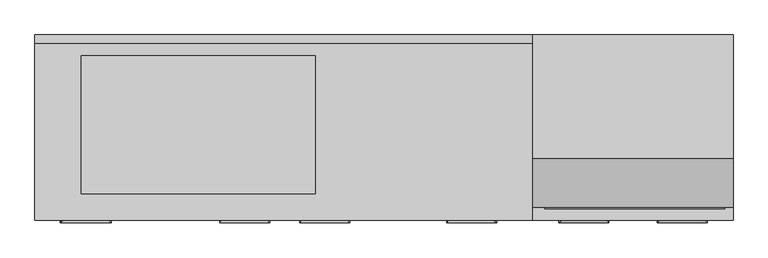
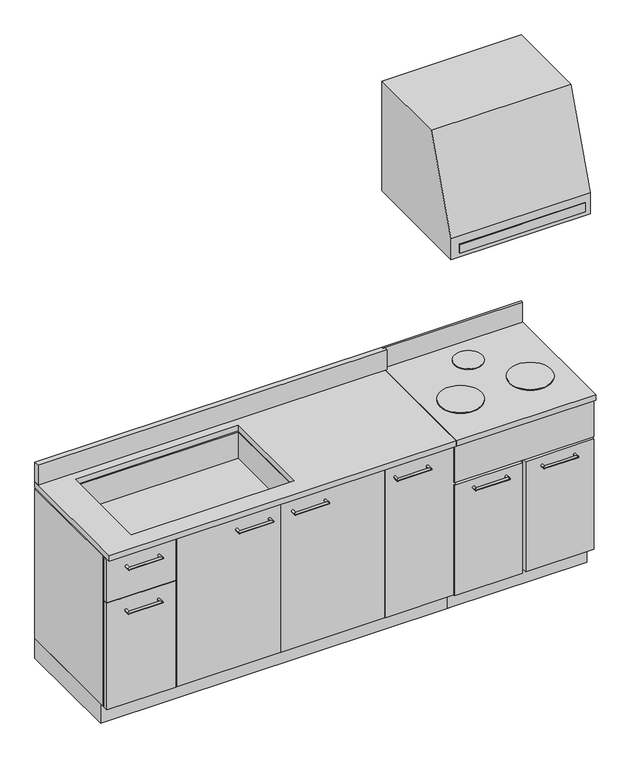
"""IFC4 building model written with IfcOpenShell, lengths in millimetres: flow terminal geometry, システムキッチンIH : システムキッチンIH."""

from ifc_helpers import new_model, si_unit, point, frame, frame_2d, origin, place, context, project, spatial, polyline, circle_curve, ellipse_curve, trimmed, segment, composite_curve, outline, extrude, faceted_brep, source, transform, mapped, element, save
from ifc_brep_helpers import plane_surface, cylinder_surface, advanced_brep


def flow_terminal_b13850ba(model_context):
    return source(origin(), model_context, "Body", "SolidModel", [
        extrude(outline(polyline([(0.0, 1600.0), (-516.4897805, 1600.0), (-516.4897805, 1695.0), (-369.4428062, 2099.0082413), (0.0, 2099.0082413), (0.0, 1600.0)])), frame((-600.0, 0.0, 0.0), z_axis=(1.0, 0.0, 0.0), x_axis=(0.0, 1.0, 0.0)), (0.0, 0.0, 1.0), 600.0),
        extrude(outline(polyline([(-24.5306616, -520.5154649), (-564.5306616, -520.5154649), (-564.5306616, -516.4897805), (-24.5306616, -516.4897805), (-24.5306616, -520.5154649)])), frame((0.0, 0.0, 1619.5443084), z_axis=(0.0, 0.0, 1.0), x_axis=(1.0, 0.0, 0.0)), (0.0, 0.0, 1.0), 40.0),
        extrude(outline(polyline([(0.0, 0.0), (0.0, -9.8381791), (-600.0, -9.8381791), (-600.0, 0.0), (0.0, 0.0)])), frame((0.0, 0.0, 800.0), z_axis=(0.0, 0.0, 1.0), x_axis=(1.0, 0.0, 0.0)), (0.0, 0.0, 1.0), 90.0),
        extrude(outline(polyline([(0.0, 0.0), (0.0, -540.0), (-600.0, -540.0), (-600.0, 0.0), (0.0, 0.0)])), frame((0.0, 0.0, 600.0), z_axis=(0.0, 0.0, 1.0), x_axis=(1.0, 0.0, 0.0)), (0.0, 0.0, 1.0), 175.0),
        faceted_brep([(0.0, 0.0, 600.0), (-600.0, 0.0, 600.0), (-600.0, -516.4897805, 600.0), (0.0, -516.4897805, 600.0), (-600.0, 0.0, 88.5), (0.0, 0.0, 88.5), (0.0, -540.0, 88.5), (-292.8169644, -540.0, 88.5), (-292.8169644, -516.4897805, 88.5), (-307.8169644, -516.4897805, 88.5), (-307.8169644, -540.0, 88.5), (-600.0, -540.0, 88.5), (-600.0, -540.0, 590.0), (-600.0, -516.4897805, 590.0), (0.0, -540.0, 590.0), (-292.8169644, -540.0, 590.0), (-307.8169644, -540.0, 590.0), (0.0, -516.4897805, 590.0), (-307.8169644, -516.4897805, 590.0), (-292.8169644, -516.4897805, 590.0)], [[[0, 1, 2, 3]], [[4, 5, 6, 7, 8, 9, 10, 11]], [[4, 11, 12, 13, 2, 1]], [[7, 6, 14, 15]], [[11, 10, 16, 12]], [[6, 5, 0, 3, 17, 14]], [[1, 0, 5, 4]], [[18, 9, 8, 19, 17, 3, 2, 13]], [[18, 13, 12, 16]], [[17, 19, 15, 14]], [[19, 8, 7, 15]], [[9, 18, 16, 10]]]),
        extrude(outline(composite_curve([segment(trimmed(circle_curve(frame_2d((-300.0, -124.5419688)), 60.0), [point((-360.0, -124.5419688))], [point((-240.0, -124.5419688))], False, "CARTESIAN"), True, "CONTINUOUS"), segment(trimmed(circle_curve(frame_2d((-300.0, -124.5419688)), 60.0), [point((-240.0, -124.5419688))], [point((-360.0, -124.5419688))], False, "CARTESIAN"), True, "CONTINUOUS")], self_intersect=False)), frame((0.0, 0.0, 800.0), z_axis=(0.0, 0.0, 1.0), x_axis=(1.0, 0.0, 0.0)), (0.0, 0.0, 1.0), 3.4559593),
        extrude(outline(composite_curve([segment(trimmed(circle_curve(frame_2d((-152.4677396, -331.6593351)), 89.0934112), [point((-241.5611508, -331.6593351))], [point((-63.3743285, -331.6593351))], False, "CARTESIAN"), True, "CONTINUOUS"), segment(trimmed(circle_curve(frame_2d((-152.4677396, -331.6593351)), 89.0934112), [point((-63.3743285, -331.6593351))], [point((-241.5611508, -331.6593351))], False, "CARTESIAN"), True, "CONTINUOUS")], self_intersect=False)), frame((0.0, 0.0, 800.0), z_axis=(0.0, 0.0, 1.0), x_axis=(1.0, 0.0, 0.0)), (0.0, 0.0, 1.0), 3.4559593),
        extrude(outline(composite_curve([segment(trimmed(circle_curve(frame_2d((-452.4677396, -331.6593351)), 89.0934112), [point((-541.5611508, -331.6593351))], [point((-363.3743285, -331.6593351))], False, "CARTESIAN"), True, "CONTINUOUS"), segment(trimmed(circle_curve(frame_2d((-452.4677396, -331.6593351)), 89.0934112), [point((-363.3743285, -331.6593351))], [point((-541.5611508, -331.6593351))], False, "CARTESIAN"), True, "CONTINUOUS")], self_intersect=False)), frame((0.0, 0.0, 800.0), z_axis=(0.0, 0.0, 1.0), x_axis=(1.0, 0.0, 0.0)), (0.0, 0.0, 1.0), 3.4559593),
        extrude(outline(polyline([(0.0, 0.0), (0.0, -555.0), (-600.0, -555.0), (-600.0, 0.0), (0.0, 0.0)])), frame((0.0, 0.0, 775.0), z_axis=(0.0, 0.0, 1.0), x_axis=(1.0, 0.0, 0.0)), (0.0, 0.0, 1.0), 25.0),
        advanced_brep(
        [(-227.6629348, -537.5962435, 549.478406), (-217.6629348, -537.5962435, 549.478406), (-227.6629348, -562.5962435, 549.478406), (-217.6629348, -552.5962435, 549.478406), (-77.6629348, -562.5962435, 549.478406), (-87.6629348, -552.5962435, 549.478406), (-77.6629348, -537.5962435, 549.478406), (-87.6629348, -537.5962435, 549.478406)],
        [
            (0, 1, circle_curve(frame((-222.6629348, -537.5962435, 549.478406), z_axis=(0.0, 1.0, 0.0), x_axis=(1.0, 0.0, 0.0)), 5.0)),
            (1, 0, circle_curve(frame((-222.6629348, -537.5962435, 549.478406), z_axis=(0.0, 1.0, 0.0), x_axis=(1.0, 0.0, 0.0)), 5.0)),
            (0, 2),
            (2, 3, ellipse_curve(frame((-222.6629348, -557.5962435, 549.478406), z_axis=(-0.7071067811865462, 0.7071067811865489, 0.0), x_axis=(0.707106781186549, 0.707106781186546, 0.0)), 7.0710678, 5.0)),
            (3, 1),
            (3, 2, ellipse_curve(frame((-222.6629348, -557.5962435, 549.478406), z_axis=(-0.7071067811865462, 0.7071067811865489, 0.0), x_axis=(0.707106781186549, 0.707106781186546, 0.0)), 7.0710678, 5.0)),
            (2, 4),
            (4, 5, ellipse_curve(frame((-82.6629348, -557.5962435, 549.478406), z_axis=(-0.7071067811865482, -0.7071067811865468, 0.0), x_axis=(-0.7071067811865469, 0.7071067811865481, 0.0)), 7.0710678, 5.0)),
            (5, 3),
            (5, 4, ellipse_curve(frame((-82.6629348, -557.5962435, 549.478406), z_axis=(-0.7071067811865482, -0.7071067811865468, 0.0), x_axis=(-0.7071067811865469, 0.7071067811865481, 0.0)), 7.0710678, 5.0)),
            (6, 7, circle_curve(frame((-82.6629348, -537.5962435, 549.478406), z_axis=(0.0, 1.0, 0.0), x_axis=(-1.0, 0.0, 0.0)), 5.0)),
            (7, 6, circle_curve(frame((-82.6629348, -537.5962435, 549.478406), z_axis=(0.0, 1.0, 0.0), x_axis=(-1.0, 0.0, 0.0)), 5.0)),
            (4, 6),
            (7, 5),
        ],
        [
            plane_surface(frame((-222.6629348, -537.5962435, 0.0), z_axis=(0.0, 1.0, 0.0), x_axis=(0.0, 0.0, 1.0))),
            cylinder_surface(frame((-222.6629348, -537.5962435, 549.478406), z_axis=(0.0, 1.0, 0.0), x_axis=(1.0, 0.0, 0.0)), 5.0),
            cylinder_surface(frame((-222.6629348, -557.5962435, 549.478406), z_axis=(-1.0, 0.0, 0.0), x_axis=(0.0, 1.0, 0.0)), 5.0),
            plane_surface(frame((-82.6629348, -537.5962435, 0.0), z_axis=(0.0, 1.0, 0.0), x_axis=(0.0, 0.0, 1.0))),
            cylinder_surface(frame((-82.6629348, -557.5962435, 549.478406), z_axis=(0.0, -1.0, 0.0), x_axis=(-1.0, 0.0, 0.0)), 5.0),
        ],
        [
            (0, [[1, 2]]),
            (1, [[-1, 3, 4, 5]]),
            (1, [[-2, -5, 6, -3]]),
            (2, [[-4, 7, 8, 9]]),
            (2, [[-6, -9, 10, -7]]),
            (3, [[11, 12]]),
            (4, [[-8, 13, -12, 14]]),
            (4, [[-10, -14, -11, -13]]),
        ],
    ),
        advanced_brep(
        [(-522.1659599, -537.5962435, 552.9843944), (-512.1659599, -537.5962435, 552.9843944), (-522.1659599, -562.5962435, 552.9843944), (-512.1659599, -552.5962435, 552.9843944), (-372.1659599, -562.5962435, 552.9843944), (-382.1659599, -552.5962435, 552.9843944), (-372.1659599, -537.5962435, 552.9843944), (-382.1659599, -537.5962435, 552.9843944)],
        [
            (0, 1, circle_curve(frame((-517.1659599, -537.5962435, 552.9843944), z_axis=(0.0, 1.0, 0.0), x_axis=(1.0, 0.0, 0.0)), 5.0)),
            (1, 0, circle_curve(frame((-517.1659599, -537.5962435, 552.9843944), z_axis=(0.0, 1.0, 0.0), x_axis=(1.0, 0.0, 0.0)), 5.0)),
            (0, 2),
            (2, 3, ellipse_curve(frame((-517.1659599, -557.5962435, 552.9843944), z_axis=(-0.7071067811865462, 0.7071067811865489, 0.0), x_axis=(0.707106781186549, 0.707106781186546, 0.0)), 7.0710678, 5.0)),
            (3, 1),
            (3, 2, ellipse_curve(frame((-517.1659599, -557.5962435, 552.9843944), z_axis=(-0.7071067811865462, 0.7071067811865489, 0.0), x_axis=(0.707106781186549, 0.707106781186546, 0.0)), 7.0710678, 5.0)),
            (2, 4),
            (4, 5, ellipse_curve(frame((-377.1659599, -557.5962435, 552.9843944), z_axis=(-0.7071067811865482, -0.7071067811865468, 0.0), x_axis=(-0.7071067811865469, 0.7071067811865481, 0.0)), 7.0710678, 5.0)),
            (5, 3),
            (5, 4, ellipse_curve(frame((-377.1659599, -557.5962435, 552.9843944), z_axis=(-0.7071067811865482, -0.7071067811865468, 0.0), x_axis=(-0.7071067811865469, 0.7071067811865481, 0.0)), 7.0710678, 5.0)),
            (6, 7, circle_curve(frame((-377.1659599, -537.5962435, 552.9843944), z_axis=(0.0, 1.0, 0.0), x_axis=(-1.0, 0.0, 0.0)), 5.0)),
            (7, 6, circle_curve(frame((-377.1659599, -537.5962435, 552.9843944), z_axis=(0.0, 1.0, 0.0), x_axis=(-1.0, 0.0, 0.0)), 5.0)),
            (4, 6),
            (7, 5),
        ],
        [
            plane_surface(frame((-517.1659599, -537.5962435, 0.0), z_axis=(0.0, 1.0, 0.0), x_axis=(0.0, 0.0, 1.0))),
            cylinder_surface(frame((-517.1659599, -537.5962435, 552.9843944), z_axis=(0.0, 1.0, 0.0), x_axis=(1.0, 0.0, 0.0)), 5.0),
            cylinder_surface(frame((-517.1659599, -557.5962435, 552.9843944), z_axis=(-1.0, 0.0, 0.0), x_axis=(0.0, 1.0, 0.0)), 5.0),
            plane_surface(frame((-377.1659599, -537.5962435, 0.0), z_axis=(0.0, 1.0, 0.0), x_axis=(0.0, 0.0, 1.0))),
            cylinder_surface(frame((-377.1659599, -557.5962435, 552.9843944), z_axis=(0.0, -1.0, 0.0), x_axis=(-1.0, 0.0, 0.0)), 5.0),
        ],
        [
            (0, [[1, 2]]),
            (1, [[-1, 3, 4, 5]]),
            (1, [[-2, -5, 6, -3]]),
            (2, [[-4, 7, 8, 9]]),
            (2, [[-6, -9, 10, -7]]),
            (3, [[11, 12]]),
            (4, [[-8, 13, -12, 14]]),
            (4, [[-10, -14, -11, -13]]),
        ],
    ),
        extrude(outline(polyline([(0.0, 0.0), (0.0, -490.0), (-600.0, -490.0), (-600.0, 0.0), (0.0, 0.0)])), frame((0.0, 0.0, -0.5), z_axis=(0.0, 0.0, 1.0), x_axis=(1.0, 0.0, 0.0)), (0.0, 0.0, 1.0), 89.0),
        faceted_brep([(-2058.2204435, -25.0, 770.0), (-2058.2204435, -490.0, 770.0), (-1043.7955275, -490.0, 770.0), (-1043.7955275, -25.0, 770.0), (-1252.8937158, -61.4897805, 770.0), (-1252.8937158, -476.3747196, 770.0), (-1952.8937158, -476.3747196, 770.0), (-1952.8937158, -61.4897805, 770.0), (-2058.2204435, -25.0, 481.2861972), (-1043.7955275, -25.0, 481.2861972), (-1043.7955275, -490.0, 481.2861972), (-2058.2204435, -490.0, 481.2861972), (-1952.8937158, -61.4897805, 650.0), (-1952.8937158, -476.3747196, 650.0), (-1252.8937158, -476.3747196, 650.0), (-1252.8937158, -61.4897805, 650.0)], [[[0, 1, 2, 3], [4, 5, 6, 7]], [[8, 9, 10, 11]], [[3, 9, 8, 0]], [[2, 10, 9, 3]], [[1, 11, 10, 2]], [[0, 8, 11, 1]], [[12, 13, 14, 15]], [[15, 4, 7, 12]], [[14, 5, 4, 15]], [[13, 6, 5, 14]], [[12, 7, 6, 13]]]),
        extrude(outline(polyline([(-2092.3937158, 0.0), (-592.8937158, 0.0), (-592.8937158, -508.8242978), (-2092.3937158, -508.8242978), (-2092.3937158, 0.0)]), holes=[polyline([(-2058.2204435, -25.0), (-2058.2204435, -490.0), (-641.4661184, -490.0), (-641.4661184, -25.0), (-2058.2204435, -25.0)])]), frame((0.0, 0.0, 90.0), z_axis=(0.0, 0.0, 1.0), x_axis=(1.0, 0.0, 0.0)), (0.0, 0.0, 1.0), 680.0),
        extrude(outline(polyline([(-2092.3937158, 0.0), (-592.8937158, 0.0), (-592.8937158, -555.0), (-2092.3937158, -555.0), (-2092.3937158, 0.0)]), holes=[polyline([(-1952.8937158, -61.4897805), (-1952.8937158, -476.3747196), (-1252.8937158, -476.3747196), (-1252.8937158, -61.4897805), (-1952.8937158, -61.4897805)])]), frame((0.0, 0.0, 775.0), z_axis=(0.0, 0.0, 1.0), x_axis=(1.0, 0.0, 0.0)), (0.0, 0.0, 1.0), 25.0),
        advanced_brep(
        [(-1865.841626, -537.5962435, 514.8721474), (-1875.841626, -537.5962435, 514.8721474), (-1875.841626, -552.5962435, 514.8721474), (-1865.841626, -562.5962435, 514.8721474), (-2005.841626, -552.5962435, 514.8721474), (-2015.841626, -562.5962435, 514.8721474), (-2015.841626, -537.5962435, 514.8721474), (-2005.841626, -537.5962435, 514.8721474)],
        [
            (0, 1, circle_curve(frame((-1870.841626, -537.5962435, 514.8721474), z_axis=(0.0, 1.0, 0.0), x_axis=(-1.0, 0.0, 0.0)), 5.0)),
            (1, 0, circle_curve(frame((-1870.841626, -537.5962435, 514.8721474), z_axis=(0.0, 1.0, 0.0), x_axis=(-1.0, 0.0, 0.0)), 5.0)),
            (1, 2),
            (2, 3, ellipse_curve(frame((-1870.841626, -557.5962435, 514.8721474), z_axis=(0.7071067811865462, 0.7071067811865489, 0.0), x_axis=(-0.707106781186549, 0.707106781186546, 0.0)), 7.0710678, 5.0)),
            (3, 0),
            (3, 2, ellipse_curve(frame((-1870.841626, -557.5962435, 514.8721474), z_axis=(0.7071067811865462, 0.7071067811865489, 0.0), x_axis=(-0.707106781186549, 0.707106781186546, 0.0)), 7.0710678, 5.0)),
            (2, 4),
            (4, 5, ellipse_curve(frame((-2010.841626, -557.5962435, 514.8721474), z_axis=(0.7071067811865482, -0.7071067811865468, 0.0), x_axis=(0.7071067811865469, 0.7071067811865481, 0.0)), 7.0710678, 5.0)),
            (5, 3),
            (5, 4, ellipse_curve(frame((-2010.841626, -557.5962435, 514.8721474), z_axis=(0.7071067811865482, -0.7071067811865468, 0.0), x_axis=(0.7071067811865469, 0.7071067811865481, 0.0)), 7.0710678, 5.0)),
            (6, 7, circle_curve(frame((-2010.841626, -537.5962435, 514.8721474), z_axis=(0.0, 1.0, 0.0), x_axis=(1.0, 0.0, 0.0)), 5.0)),
            (7, 6, circle_curve(frame((-2010.841626, -537.5962435, 514.8721474), z_axis=(0.0, 1.0, 0.0), x_axis=(1.0, 0.0, 0.0)), 5.0)),
            (4, 7),
            (6, 5),
        ],
        [
            plane_surface(frame((-1870.841626, -537.5962435, -199.3877131), z_axis=(0.0, 1.0, 0.0), x_axis=(0.0, 0.0, 1.0))),
            cylinder_surface(frame((-1870.841626, -537.5962435, 514.8721474), z_axis=(0.0, 1.0, 0.0), x_axis=(-1.0, 0.0, 0.0)), 5.0),
            cylinder_surface(frame((-1870.841626, -557.5962435, 514.8721474), z_axis=(1.0, 0.0, 0.0), x_axis=(0.0, 1.0, 0.0)), 5.0),
            plane_surface(frame((-2010.841626, -537.5962435, -199.3877131), z_axis=(0.0, 1.0, 0.0), x_axis=(0.0, 0.0, 1.0))),
            cylinder_surface(frame((-2010.841626, -557.5962435, 514.8721474), z_axis=(0.0, -1.0, 0.0), x_axis=(1.0, 0.0, 0.0)), 5.0),
        ],
        [
            (0, [[1, 2]]),
            (1, [[3, 4, 5, -2]]),
            (1, [[-5, 6, -3, -1]]),
            (2, [[7, 8, 9, -4]]),
            (2, [[-9, 10, -7, -6]]),
            (3, [[11, 12]]),
            (4, [[13, -11, 14, -8]]),
            (4, [[-14, -12, -13, -10]]),
        ],
    ),
        advanced_brep(
        [(-1863.8176436, -537.5962435, 714.2598605), (-1873.8176436, -537.5962435, 714.2598605), (-1873.8176436, -552.5962435, 714.2598605), (-1863.8176436, -562.5962435, 714.2598605), (-2003.8176436, -552.5962435, 714.2598605), (-2013.8176436, -562.5962435, 714.2598605), (-2013.8176436, -537.5962435, 714.2598605), (-2003.8176436, -537.5962435, 714.2598605)],
        [
            (0, 1, circle_curve(frame((-1868.8176436, -537.5962435, 714.2598605), z_axis=(0.0, 1.0, 0.0), x_axis=(-1.0, 0.0, 0.0)), 5.0)),
            (1, 0, circle_curve(frame((-1868.8176436, -537.5962435, 714.2598605), z_axis=(0.0, 1.0, 0.0), x_axis=(-1.0, 0.0, 0.0)), 5.0)),
            (1, 2),
            (2, 3, ellipse_curve(frame((-1868.8176436, -557.5962435, 714.2598605), z_axis=(0.7071067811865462, 0.7071067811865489, 0.0), x_axis=(-0.707106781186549, 0.707106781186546, 0.0)), 7.0710678, 5.0)),
            (3, 0),
            (3, 2, ellipse_curve(frame((-1868.8176436, -557.5962435, 714.2598605), z_axis=(0.7071067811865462, 0.7071067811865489, 0.0), x_axis=(-0.707106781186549, 0.707106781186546, 0.0)), 7.0710678, 5.0)),
            (2, 4),
            (4, 5, ellipse_curve(frame((-2008.8176436, -557.5962435, 714.2598605), z_axis=(0.7071067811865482, -0.7071067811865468, 0.0), x_axis=(0.7071067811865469, 0.7071067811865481, 0.0)), 7.0710678, 5.0)),
            (5, 3),
            (5, 4, ellipse_curve(frame((-2008.8176436, -557.5962435, 714.2598605), z_axis=(0.7071067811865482, -0.7071067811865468, 0.0), x_axis=(0.7071067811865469, 0.7071067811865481, 0.0)), 7.0710678, 5.0)),
            (6, 7, circle_curve(frame((-2008.8176436, -537.5962435, 714.2598605), z_axis=(0.0, 1.0, 0.0), x_axis=(1.0, 0.0, 0.0)), 5.0)),
            (7, 6, circle_curve(frame((-2008.8176436, -537.5962435, 714.2598605), z_axis=(0.0, 1.0, 0.0), x_axis=(1.0, 0.0, 0.0)), 5.0)),
            (4, 7),
            (6, 5),
        ],
        [
            plane_surface(frame((-1868.8176436, -537.5962435, 0.0), z_axis=(0.0, 1.0, 0.0), x_axis=(0.0, 0.0, 1.0))),
            cylinder_surface(frame((-1868.8176436, -537.5962435, 714.2598605), z_axis=(0.0, 1.0, 0.0), x_axis=(-1.0, 0.0, 0.0)), 5.0),
            cylinder_surface(frame((-1868.8176436, -557.5962435, 714.2598605), z_axis=(1.0, 0.0, 0.0), x_axis=(0.0, 1.0, 0.0)), 5.0),
            plane_surface(frame((-2008.8176436, -537.5962435, 0.0), z_axis=(0.0, 1.0, 0.0), x_axis=(0.0, 0.0, 1.0))),
            cylinder_surface(frame((-2008.8176436, -557.5962435, 714.2598605), z_axis=(0.0, -1.0, 0.0), x_axis=(1.0, 0.0, 0.0)), 5.0),
        ],
        [
            (0, [[1, 2]]),
            (1, [[3, 4, 5, -2]]),
            (1, [[-5, 6, -3, -1]]),
            (2, [[7, 8, 9, -4]]),
            (2, [[-9, 10, -7, -6]]),
            (3, [[11, 12]]),
            (4, [[13, -11, 14, -8]]),
            (4, [[-14, -12, -13, -10]]),
        ],
    ),
        advanced_brep(
        [(-1388.8176436, -537.5962435, 714.2598605), (-1398.8176436, -537.5962435, 714.2598605), (-1398.8176436, -552.5962435, 714.2598605), (-1388.8176436, -562.5962435, 714.2598605), (-1528.8176436, -552.5962435, 714.2598605), (-1538.8176436, -562.5962435, 714.2598605), (-1538.8176436, -537.5962435, 714.2598605), (-1528.8176436, -537.5962435, 714.2598605)],
        [
            (0, 1, circle_curve(frame((-1393.8176436, -537.5962435, 714.2598605), z_axis=(0.0, 1.0, 0.0), x_axis=(-1.0, 0.0, 0.0)), 5.0)),
            (1, 0, circle_curve(frame((-1393.8176436, -537.5962435, 714.2598605), z_axis=(0.0, 1.0, 0.0), x_axis=(-1.0, 0.0, 0.0)), 5.0)),
            (1, 2),
            (2, 3, ellipse_curve(frame((-1393.8176436, -557.5962435, 714.2598605), z_axis=(0.7071067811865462, 0.7071067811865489, 0.0), x_axis=(-0.707106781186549, 0.707106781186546, 0.0)), 7.0710678, 5.0)),
            (3, 0),
            (3, 2, ellipse_curve(frame((-1393.8176436, -557.5962435, 714.2598605), z_axis=(0.7071067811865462, 0.7071067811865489, 0.0), x_axis=(-0.707106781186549, 0.707106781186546, 0.0)), 7.0710678, 5.0)),
            (2, 4),
            (4, 5, ellipse_curve(frame((-1533.8176436, -557.5962435, 714.2598605), z_axis=(0.7071067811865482, -0.7071067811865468, 0.0), x_axis=(0.7071067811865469, 0.7071067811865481, 0.0)), 7.0710678, 5.0)),
            (5, 3),
            (5, 4, ellipse_curve(frame((-1533.8176436, -557.5962435, 714.2598605), z_axis=(0.7071067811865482, -0.7071067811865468, 0.0), x_axis=(0.7071067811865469, 0.7071067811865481, 0.0)), 7.0710678, 5.0)),
            (6, 7, circle_curve(frame((-1533.8176436, -537.5962435, 714.2598605), z_axis=(0.0, 1.0, 0.0), x_axis=(1.0, 0.0, 0.0)), 5.0)),
            (7, 6, circle_curve(frame((-1533.8176436, -537.5962435, 714.2598605), z_axis=(0.0, 1.0, 0.0), x_axis=(1.0, 0.0, 0.0)), 5.0)),
            (4, 7),
            (6, 5),
        ],
        [
            plane_surface(frame((-1393.8176436, -537.5962435, 0.0), z_axis=(0.0, 1.0, 0.0), x_axis=(0.0, 0.0, 1.0))),
            cylinder_surface(frame((-1393.8176436, -537.5962435, 714.2598605), z_axis=(0.0, 1.0, 0.0), x_axis=(-1.0, 0.0, 0.0)), 5.0),
            cylinder_surface(frame((-1393.8176436, -557.5962435, 714.2598605), z_axis=(1.0, 0.0, 0.0), x_axis=(0.0, 1.0, 0.0)), 5.0),
            plane_surface(frame((-1533.8176436, -537.5962435, 0.0), z_axis=(0.0, 1.0, 0.0), x_axis=(0.0, 0.0, 1.0))),
            cylinder_surface(frame((-1533.8176436, -557.5962435, 714.2598605), z_axis=(0.0, -1.0, 0.0), x_axis=(1.0, 0.0, 0.0)), 5.0),
        ],
        [
            (0, [[1, 2]]),
            (1, [[3, 4, 5, -2]]),
            (1, [[-5, 6, -3, -1]]),
            (2, [[7, 8, 9, -4]]),
            (2, [[-9, 10, -7, -6]]),
            (3, [[11, 12]]),
            (4, [[13, -11, 14, -8]]),
            (4, [[-14, -12, -13, -10]]),
        ],
    ),
        advanced_brep(
        [(-1148.8176436, -537.5962435, 714.2598605), (-1158.8176436, -537.5962435, 714.2598605), (-1158.8176436, -552.5962435, 714.2598605), (-1148.8176436, -562.5962435, 714.2598605), (-1288.8176436, -552.5962435, 714.2598605), (-1298.8176436, -562.5962435, 714.2598605), (-1298.8176436, -537.5962435, 714.2598605), (-1288.8176436, -537.5962435, 714.2598605)],
        [
            (0, 1, circle_curve(frame((-1153.8176436, -537.5962435, 714.2598605), z_axis=(0.0, 1.0, 0.0), x_axis=(-1.0, 0.0, 0.0)), 5.0)),
            (1, 0, circle_curve(frame((-1153.8176436, -537.5962435, 714.2598605), z_axis=(0.0, 1.0, 0.0), x_axis=(-1.0, 0.0, 0.0)), 5.0)),
            (1, 2),
            (2, 3, ellipse_curve(frame((-1153.8176436, -557.5962435, 714.2598605), z_axis=(0.7071067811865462, 0.7071067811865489, 0.0), x_axis=(-0.707106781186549, 0.707106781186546, 0.0)), 7.0710678, 5.0)),
            (3, 0),
            (3, 2, ellipse_curve(frame((-1153.8176436, -557.5962435, 714.2598605), z_axis=(0.7071067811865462, 0.7071067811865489, 0.0), x_axis=(-0.707106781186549, 0.707106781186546, 0.0)), 7.0710678, 5.0)),
            (2, 4),
            (4, 5, ellipse_curve(frame((-1293.8176436, -557.5962435, 714.2598605), z_axis=(0.7071067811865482, -0.7071067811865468, 0.0), x_axis=(0.7071067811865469, 0.7071067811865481, 0.0)), 7.0710678, 5.0)),
            (5, 3),
            (5, 4, ellipse_curve(frame((-1293.8176436, -557.5962435, 714.2598605), z_axis=(0.7071067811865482, -0.7071067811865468, 0.0), x_axis=(0.7071067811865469, 0.7071067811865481, 0.0)), 7.0710678, 5.0)),
            (6, 7, circle_curve(frame((-1293.8176436, -537.5962435, 714.2598605), z_axis=(0.0, 1.0, 0.0), x_axis=(1.0, 0.0, 0.0)), 5.0)),
            (7, 6, circle_curve(frame((-1293.8176436, -537.5962435, 714.2598605), z_axis=(0.0, 1.0, 0.0), x_axis=(1.0, 0.0, 0.0)), 5.0)),
            (4, 7),
            (6, 5),
        ],
        [
            plane_surface(frame((-1153.8176436, -537.5962435, 0.0), z_axis=(0.0, 1.0, 0.0), x_axis=(0.0, 0.0, 1.0))),
            cylinder_surface(frame((-1153.8176436, -537.5962435, 714.2598605), z_axis=(0.0, 1.0, 0.0), x_axis=(-1.0, 0.0, 0.0)), 5.0),
            cylinder_surface(frame((-1153.8176436, -557.5962435, 714.2598605), z_axis=(1.0, 0.0, 0.0), x_axis=(0.0, 1.0, 0.0)), 5.0),
            plane_surface(frame((-1293.8176436, -537.5962435, 0.0), z_axis=(0.0, 1.0, 0.0), x_axis=(0.0, 0.0, 1.0))),
            cylinder_surface(frame((-1293.8176436, -557.5962435, 714.2598605), z_axis=(0.0, -1.0, 0.0), x_axis=(1.0, 0.0, 0.0)), 5.0),
        ],
        [
            (0, [[1, 2]]),
            (1, [[3, 4, 5, -2]]),
            (1, [[-5, 6, -3, -1]]),
            (2, [[7, 8, 9, -4]]),
            (2, [[-9, 10, -7, -6]]),
            (3, [[11, 12]]),
            (4, [[13, -11, 14, -8]]),
            (4, [[-14, -12, -13, -10]]),
        ],
    ),
        advanced_brep(
        [(-708.8176436, -537.5962435, 714.2598605), (-718.8176436, -537.5962435, 714.2598605), (-718.8176436, -552.5962435, 714.2598605), (-708.8176436, -562.5962435, 714.2598605), (-848.8176436, -552.5962435, 714.2598605), (-858.8176436, -562.5962435, 714.2598605), (-858.8176436, -537.5962435, 714.2598605), (-848.8176436, -537.5962435, 714.2598605)],
        [
            (0, 1, circle_curve(frame((-713.8176436, -537.5962435, 714.2598605), z_axis=(0.0, 1.0, 0.0), x_axis=(-1.0, 0.0, 0.0)), 5.0)),
            (1, 0, circle_curve(frame((-713.8176436, -537.5962435, 714.2598605), z_axis=(0.0, 1.0, 0.0), x_axis=(-1.0, 0.0, 0.0)), 5.0)),
            (1, 2),
            (2, 3, ellipse_curve(frame((-713.8176436, -557.5962435, 714.2598605), z_axis=(0.7071067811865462, 0.7071067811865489, 0.0), x_axis=(-0.707106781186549, 0.707106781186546, 0.0)), 7.0710678, 5.0)),
            (3, 0),
            (3, 2, ellipse_curve(frame((-713.8176436, -557.5962435, 714.2598605), z_axis=(0.7071067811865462, 0.7071067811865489, 0.0), x_axis=(-0.707106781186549, 0.707106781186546, 0.0)), 7.0710678, 5.0)),
            (2, 4),
            (4, 5, ellipse_curve(frame((-853.8176436, -557.5962435, 714.2598605), z_axis=(0.7071067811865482, -0.7071067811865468, 0.0), x_axis=(0.7071067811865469, 0.7071067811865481, 0.0)), 7.0710678, 5.0)),
            (5, 3),
            (5, 4, ellipse_curve(frame((-853.8176436, -557.5962435, 714.2598605), z_axis=(0.7071067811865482, -0.7071067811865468, 0.0), x_axis=(0.7071067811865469, 0.7071067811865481, 0.0)), 7.0710678, 5.0)),
            (6, 7, circle_curve(frame((-853.8176436, -537.5962435, 714.2598605), z_axis=(0.0, 1.0, 0.0), x_axis=(1.0, 0.0, 0.0)), 5.0)),
            (7, 6, circle_curve(frame((-853.8176436, -537.5962435, 714.2598605), z_axis=(0.0, 1.0, 0.0), x_axis=(1.0, 0.0, 0.0)), 5.0)),
            (4, 7),
            (6, 5),
        ],
        [
            plane_surface(frame((-713.8176436, -537.5962435, 0.0), z_axis=(0.0, 1.0, 0.0), x_axis=(0.0, 0.0, 1.0))),
            cylinder_surface(frame((-713.8176436, -537.5962435, 714.2598605), z_axis=(0.0, 1.0, 0.0), x_axis=(-1.0, 0.0, 0.0)), 5.0),
            cylinder_surface(frame((-713.8176436, -557.5962435, 714.2598605), z_axis=(1.0, 0.0, 0.0), x_axis=(0.0, 1.0, 0.0)), 5.0),
            plane_surface(frame((-853.8176436, -537.5962435, 0.0), z_axis=(0.0, 1.0, 0.0), x_axis=(0.0, 0.0, 1.0))),
            cylinder_surface(frame((-853.8176436, -557.5962435, 714.2598605), z_axis=(0.0, -1.0, 0.0), x_axis=(1.0, 0.0, 0.0)), 5.0),
        ],
        [
            (0, [[1, 2]]),
            (1, [[3, 4, 5, -2]]),
            (1, [[-5, 6, -3, -1]]),
            (2, [[7, 8, 9, -4]]),
            (2, [[-9, 10, -7, -6]]),
            (3, [[11, 12]]),
            (4, [[13, -11, 14, -8]]),
            (4, [[-14, -12, -13, -10]]),
        ],
    ),
        extrude(outline(polyline([(-2092.3937158, -536.4897805), (-2092.3937158, -516.4897805), (-1797.3937158, -516.4897805), (-1797.3937158, -536.4897805), (-2092.3937158, -536.4897805)])), frame((0.0, 0.0, 89.5), z_axis=(0.0, 0.0, 1.0), x_axis=(1.0, 0.0, 0.0)), (0.0, 0.0, 1.0), 484.284389),
        extrude(outline(polyline([(-2092.3937158, -536.4897805), (-2092.3937158, -516.4897805), (-1797.3937158, -516.4897805), (-1797.3937158, -536.4897805), (-2092.3937158, -536.4897805)])), frame((0.0, 0.0, 575.0), z_axis=(0.0, 0.0, 1.0), x_axis=(1.0, 0.0, 0.0)), (0.0, 0.0, 1.0), 195.0),
        extrude(outline(polyline([(-1792.8937158, -516.4897805), (-1345.5480741, -516.4897805), (-1345.5480741, -536.4897805), (-1792.8937158, -536.4897805), (-1792.8937158, -516.4897805)])), frame((0.0, 0.0, 89.0), z_axis=(0.0, 0.0, 1.0), x_axis=(1.0, 0.0, 0.0)), (0.0, 0.0, 1.0), 681.0),
        extrude(outline(polyline([(-1342.3937158, -516.4897805), (-897.3937158, -516.4897805), (-897.3937158, -536.4897805), (-1342.3937158, -536.4897805), (-1342.3937158, -516.4897805)])), frame((0.0, 0.0, 89.0), z_axis=(0.0, 0.0, 1.0), x_axis=(1.0, 0.0, 0.0)), (0.0, 0.0, 1.0), 681.0),
        extrude(outline(polyline([(-892.8937158, -516.4897805), (-592.8937158, -516.4897805), (-592.8937158, -536.4897805), (-892.8937158, -536.4897805), (-892.8937158, -516.4897805)])), frame((0.0, 0.0, 89.0), z_axis=(0.0, 0.0, 1.0), x_axis=(1.0, 0.0, 0.0)), (0.0, 0.0, 1.0), 686.0),
        extrude(outline(polyline([(-2092.3937158, 0.0), (-592.8937158, 0.0), (-592.8937158, -490.0), (-2092.3937158, -490.0), (-2092.3937158, 0.0)])), frame((0.0, 0.0, -0.5), z_axis=(0.0, 0.0, 1.0), x_axis=(1.0, 0.0, 0.0)), (0.0, 0.0, 1.0), 89.0),
        extrude(outline(polyline([(-2092.3937158, 0.0), (-592.8937158, 0.0), (-592.8937158, -25.0), (-2092.3937158, -25.0), (-2092.3937158, 0.0)])), frame((0.0, 0.0, 800.0), z_axis=(0.0, 0.0, 1.0), x_axis=(1.0, 0.0, 0.0)), (0.0, 0.0, 1.0), 90.0),
    ])


if __name__ == "__main__":
    model = new_model("IFC4")
    model_context = context("Model", 3, world=origin())
    ifc_project = project(units=[si_unit("LENGTHUNIT", "METRE", prefix="MILLI")], contexts=[model_context])
    site = spatial("IfcSite", under=ifc_project)
    building = spatial("IfcBuilding", under=site)
    placement = place(None, origin())
    flow_terminal_shape = flow_terminal_b13850ba(model_context)
    element("IfcFlowTerminal", 1, ObjectType="システムキッチンIH : システムキッチンIH", at=placement, inside=building, context=model_context, shape_type="MappedRepresentation", body=[
        mapped(flow_terminal_shape, transform((0.0, 0.0, 0.0), x_axis=(1.0, 0.0, 0.0), y_axis=(0.0, 1.0, 0.0), z_axis=(0.0, 0.0, 1.0))),
    ])
    save(model, "model.ifc")
